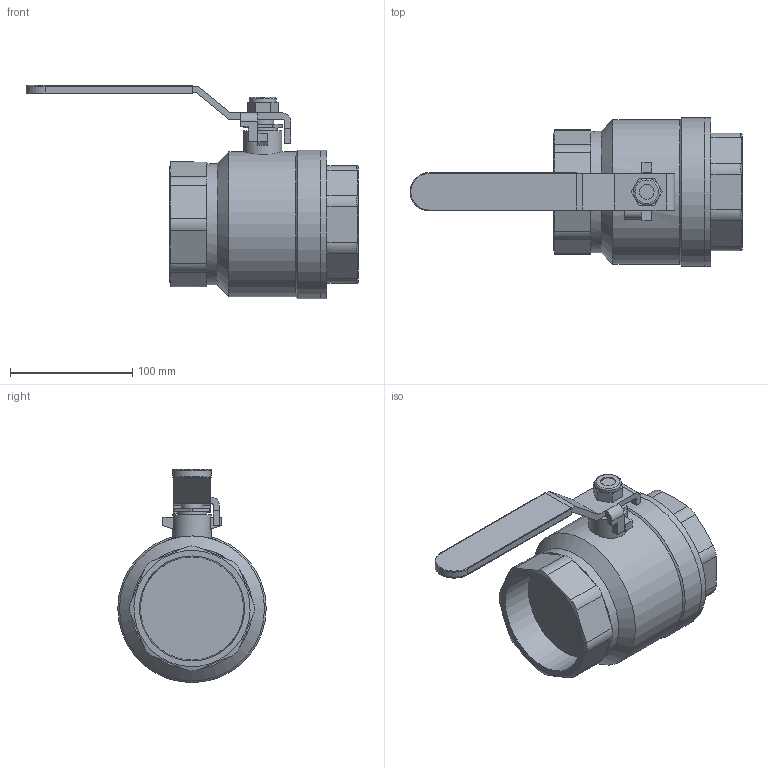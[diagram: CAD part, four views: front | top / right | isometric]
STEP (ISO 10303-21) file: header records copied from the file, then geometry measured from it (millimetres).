
FILE_DESCRIPTION((' '),'2;1');
FILE_NAME('N:\Technical Support\Private\Jomar Valve CAD\Ball Valves\Brass\3.0 JF-100T (100-110)FusionCopy.stp.step','2016-04-27T16:44:43',(' '),(' '),' ','ACIS',' ');
FILE_SCHEMA(('CONFIG_CONTROL_DESIGN'));
Length unit declared in the file: inch
Products named in the file (8): N:\Technical Support\Private\Jomar Valve CAD\Ball Valves\Brass\3.0 JF-100T (100-110)FusionCopy.stp.step; Body1; Body2; Body3; Body4; Body5; Body6; Body7
Assembly tree (7 placements, depth 2):
  N:\Technical Support\Private\Jomar Valve CAD\Ball Valves\Brass\3.0 JF-100T (100-110)FusionCopy.stp.step
    Body1
    Body2
    Body3
    Body4
    Body5
    Body6
    Body7
Bounding box: 271.95 x 121.54 x 174.72 mm (x, y, z)
Volume: 1280030.1 mm3; surface area: 146399.7 mm2
Topology: 7 solids, 7 shells, 160 faces, 391 edges, 251 vertices
Faces by surface type: plane 105, cylinder 40, bspline 7, cone 5, torus 3
Full cylindrical faces by diameter (mm): 12.065 x1, 17.78 x1, 18.288 x1, 21.844 x1, 24.003 x1, 31.369 x1, 99.314 x1, 118.745 x1, 121.539 x2
Entity records: 5715 total; most frequent: CARTESIAN_POINT 965, DIRECTION 766, ORIENTED_EDGE 730, EDGE_CURVE 365, AXIS2_PLACEMENT_3D 267, VERTEX_POINT 243, VECTOR 232, LINE 232
